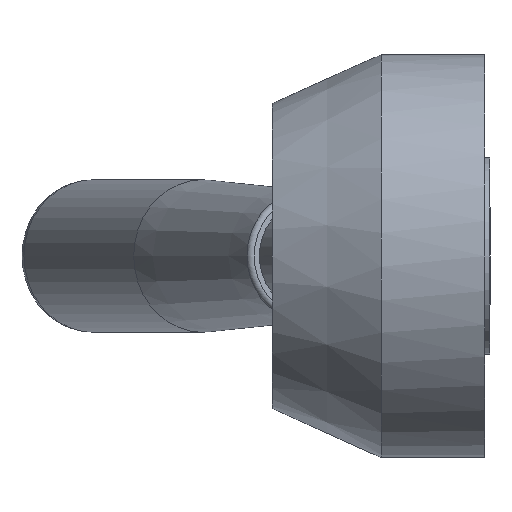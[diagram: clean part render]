
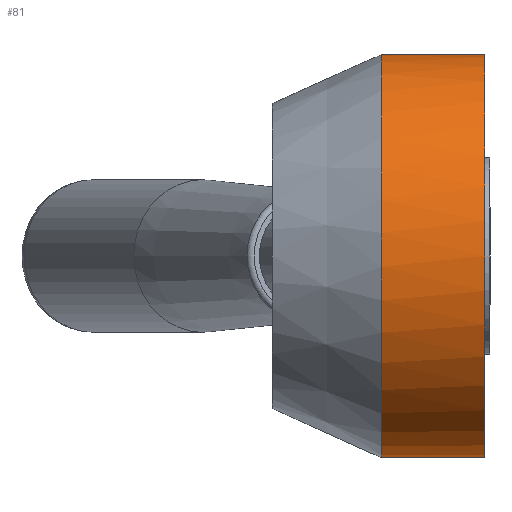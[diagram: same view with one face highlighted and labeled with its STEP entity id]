
A CAD part, left-side view. The second image highlights one B-rep face of the part: STEP entity #81.
In plain terms, the highlighted cylindrical face has radius 18.5 mm (diameter 37 mm), a full revolution.
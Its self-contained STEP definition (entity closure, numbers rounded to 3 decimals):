
#81 = ADVANCED_FACE( '', ( #135, #136 ), #137, .T. );
#135 = FACE_OUTER_BOUND( '', #236, .T. );
#136 = FACE_OUTER_BOUND( '', #237, .T. );
#137 = CYLINDRICAL_SURFACE( '', #238, 18.5 );
#236 = EDGE_LOOP( '', ( #369 ) );
#237 = EDGE_LOOP( '', ( #370, #371, #372, #373 ) );
#238 = AXIS2_PLACEMENT_3D( '', #374, #375, #376 );
#369 = ORIENTED_EDGE( '', *, *, #596, .F. );
#370 = ORIENTED_EDGE( '', *, *, #584, .F. );
#371 = ORIENTED_EDGE( '', *, *, #603, .T. );
#372 = ORIENTED_EDGE( '', *, *, #573, .F. );
#373 = ORIENTED_EDGE( '', *, *, #604, .F. );
#374 = CARTESIAN_POINT( '', ( 0., 0., 0. ) );
#375 = DIRECTION( '', ( 0., 1., 0. ) );
#376 = DIRECTION( '', ( 0., 0., -1. ) );
#573 = EDGE_CURVE( '', #644, #645, #646, .F. );
#584 = EDGE_CURVE( '', #663, #665, #666, .T. );
#596 = EDGE_CURVE( '', #688, #688, #689, .T. );
#603 = EDGE_CURVE( '', #663, #645, #702, .T. );
#604 = EDGE_CURVE( '', #665, #644, #703, .T. );
#644 = VERTEX_POINT( '', #763 );
#645 = VERTEX_POINT( '', #764 );
#646 = LINE( '', #765, #766 );
#663 = VERTEX_POINT( '', #793 );
#665 = VERTEX_POINT( '', #798 );
#666 = LINE( '', #799, #800 );
#688 = VERTEX_POINT( '', #827 );
#689 = CIRCLE( '', #828, 18.5 );
#702 = CIRCLE( '', #841, 18.5 );
#703 = CIRCLE( '', #842, 18.5 );
#763 = CARTESIAN_POINT( '', ( 16.258, 2., -8.827 ) );
#764 = CARTESIAN_POINT( '', ( 16.258, 10., -8.827 ) );
#765 = CARTESIAN_POINT( '', ( 16.258, 0., -8.827 ) );
#766 = VECTOR( '', #918, 1000. );
#793 = CARTESIAN_POINT( '', ( 16.258, 10., 8.827 ) );
#798 = CARTESIAN_POINT( '', ( 16.258, 2., 8.827 ) );
#799 = CARTESIAN_POINT( '', ( 16.258, 0., 8.827 ) );
#800 = VECTOR( '', #929, 1000. );
#827 = CARTESIAN_POINT( '', ( 0., 0.5, -18.5 ) );
#828 = AXIS2_PLACEMENT_3D( '', #953, #954, #955 );
#841 = AXIS2_PLACEMENT_3D( '', #974, #975, #976 );
#842 = AXIS2_PLACEMENT_3D( '', #977, #978, #979 );
#918 = DIRECTION( '', ( 0., -1., 0. ) );
#929 = DIRECTION( '', ( 0., -1., 0. ) );
#953 = CARTESIAN_POINT( '', ( 0., 0.5, 0. ) );
#954 = DIRECTION( '', ( 0., -1., 0. ) );
#955 = DIRECTION( '', ( 0., 0., -1. ) );
#974 = CARTESIAN_POINT( '', ( 0., 10., 0. ) );
#975 = DIRECTION( '', ( 0., -1., 0. ) );
#976 = DIRECTION( '', ( 0., 0., -1. ) );
#977 = CARTESIAN_POINT( '', ( 0., 2., 0. ) );
#978 = DIRECTION( '', ( 0., 1., 0. ) );
#979 = DIRECTION( '', ( 0., 0., 1. ) );
